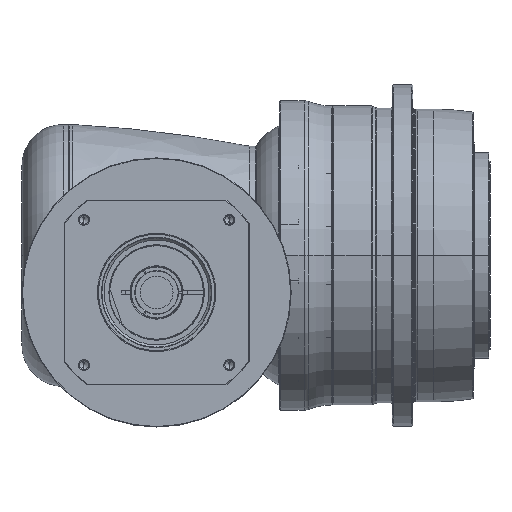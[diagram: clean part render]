
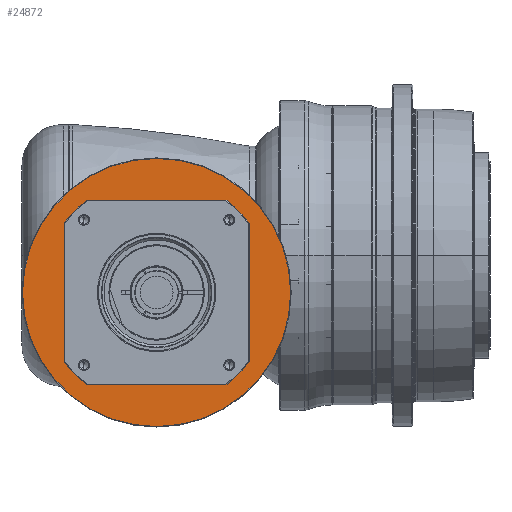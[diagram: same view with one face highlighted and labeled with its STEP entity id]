
A CAD part, front view. The second image highlights one B-rep face of the part: STEP entity #24872.
In plain terms, the highlighted planar face has unit normal (0, -1, 0) as drawn and (1, 0, 0) by its records, which use the part's own axes.
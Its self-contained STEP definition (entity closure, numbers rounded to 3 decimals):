
#22940=CARTESIAN_POINT('',(-15.5,0.,0.));
#22941=DIRECTION('',(-1.,0.,0.));
#22942=DIRECTION('',(0.,-1.,0.));
#22943=AXIS2_PLACEMENT_3D('',#22940,#22941,#22942);
#22945=CARTESIAN_POINT('',(-15.5,0.,0.));
#22946=DIRECTION('',(-1.,0.,0.));
#22947=DIRECTION('',(0.,1.,0.));
#22948=AXIS2_PLACEMENT_3D('',#22945,#22946,#22947);
#22950=CARTESIAN_POINT('',(-15.5,0.,0.));
#22951=DIRECTION('',(-1.,0.,0.));
#22952=DIRECTION('',(0.,-1.,0.));
#22953=AXIS2_PLACEMENT_3D('',#22950,#22951,#22952);
#22955=CARTESIAN_POINT('',(-15.5,0.,0.));
#22956=DIRECTION('',(-1.,0.,0.));
#22957=DIRECTION('',(0.,1.,0.));
#22958=AXIS2_PLACEMENT_3D('',#22955,#22956,#22957);
#23573=CARTESIAN_POINT('',(-15.5,-130.5,0.));
#23574=CARTESIAN_POINT('',(-15.5,130.5,0.));
#23575=VERTEX_POINT('',#23573);
#23576=VERTEX_POINT('',#23574);
#23655=CARTESIAN_POINT('',(-15.5,-80.5,0.));
#23656=CARTESIAN_POINT('',(-15.5,80.5,0.));
#23657=VERTEX_POINT('',#23655);
#23658=VERTEX_POINT('',#23656);
#24857=CARTESIAN_POINT('',(-15.5,0.,0.));
#24858=DIRECTION('',(1.,0.,0.));
#24859=DIRECTION('',(0.,-1.,0.));
#24860=AXIS2_PLACEMENT_3D('',#24857,#24858,#24859);
#24861=PLANE('',#24860);
#24862=ORIENTED_EDGE('',*,*,#24813,.T.);
#24863=ORIENTED_EDGE('',*,*,#24798,.T.);
#24864=EDGE_LOOP('',(#24862,#24863));
#24865=FACE_OUTER_BOUND('',#24864,.F.);
#24867=ORIENTED_EDGE('',*,*,#24866,.F.);
#24869=ORIENTED_EDGE('',*,*,#24868,.F.);
#24870=EDGE_LOOP('',(#24867,#24869));
#24871=FACE_BOUND('',#24870,.F.);
#24872=ADVANCED_FACE('',(#24865,#24871),#24861,.T.);
#22944=CIRCLE('',#22943,80.5);
#22949=CIRCLE('',#22948,80.5);
#22954=CIRCLE('',#22953,130.5);
#22959=CIRCLE('',#22958,130.5);
#24798=EDGE_CURVE('',#23576,#23575,#22959,.T.);
#24813=EDGE_CURVE('',#23575,#23576,#22954,.T.);
#24866=EDGE_CURVE('',#23657,#23658,#22944,.T.);
#24868=EDGE_CURVE('',#23658,#23657,#22949,.T.);
